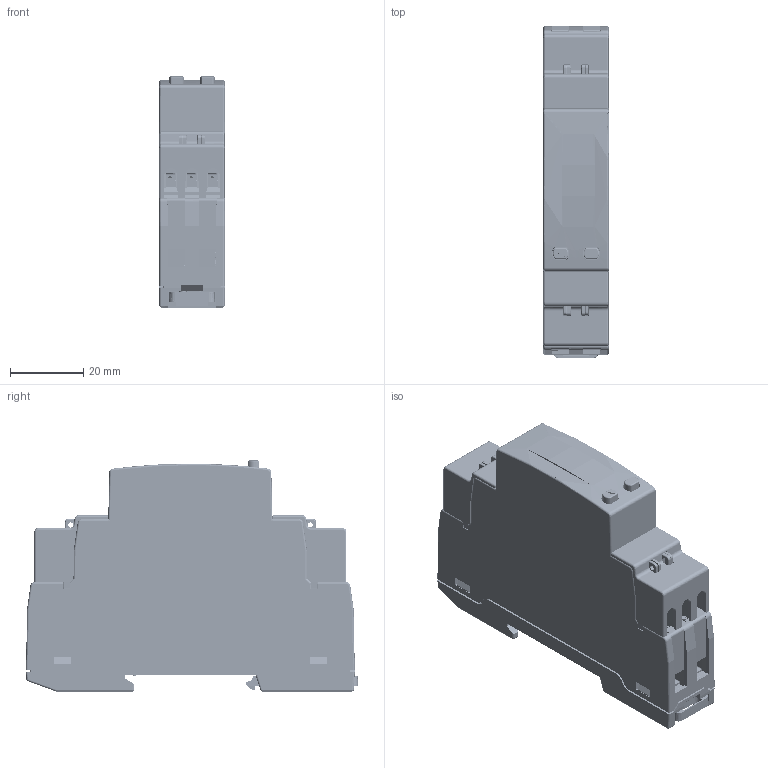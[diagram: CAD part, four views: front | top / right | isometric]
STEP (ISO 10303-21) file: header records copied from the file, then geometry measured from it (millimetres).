
FILE_DESCRIPTION(/* description */ (''),/* implementation_level */ '2;1');
FILE_NAME(/* name */ 'Z:\Meccanica\EM511\EM511_REV2\EM511 - Full_20220228.stp',/* time_stamp */ '2022-02-28T15:48:15+01:00',/* author */ ('dfregona'),/* organization */ (''),/* preprocessor_version */ 'ST-DEVELOPER v18.1',/* originating_system */ 'Autodesk Inventor 2021',/* authorisation */ '');
FILE_SCHEMA (('AUTOMOTIVE_DESIGN { 1 0 10303 214 3 1 1 }'));
Products named in the file (38): EM511; MEC1245_Rev4; MEC1246_Rev3; MEC1247_Rev1; MEC1248_Rev1.1; MEC1249_Rev1; MEC1250_Rev2; EM140-GG-2_3_XG_AF6_2; MEC1251; MEC1252_Rev2; AssiemePCB_2; 2301579; CS1791; CS1793; CS1741; CS1741_BoardAndModels; DesignRootModel; Submodel-2605006_part_simplified_0805led; Submodel-D_prj_pcbCS1741BLayout3DInput_SLED SMD 0805.xtd; LED SMD 0805; Submodel-43-508_part_simplified_MPTCLGP2; Submodel-D_prj_pcbCS1741BLayout3DInput_S3x4x2mm - 2 Pad.xtd; 3x4x2mm - 2 Pad; uid__3361580; Submodel-WeldConn_3131823683_part_SMDRNDRCT80x55; Submodel-noModelForPart_WeldConn_3131823683; placementOutline; Submodel-WeldConn_3332427523_part_SMDRNDRCT80x55; Submodel-noModelForPart_WeldConn_3332427523; placementOutline_1; CS1741_CopperTop; CS1741_CopperBottom; CS1737; Trafo_EM511; 1302221_Carrello; 1319123 - Vite Pozidriv_rev1; Vite_MSQ; 1.14.00.00.4
Assembly tree (53 placements, depth 8):
  EM511
    MEC1245_Rev4
    MEC1246_Rev3
    MEC1247_Rev1
    MEC1248_Rev1.1  x2
    MEC1249_Rev1
    MEC1250_Rev2
    EM140-GG-2_3_XG_AF6_2
    MEC1251
    MEC1252_Rev2
    AssiemePCB_2
      2301579
      CS1791
      CS1793
      CS1741
        CS1741_BoardAndModels
          DesignRootModel
            Submodel-2605006_part_simplified_0805led
              Submodel-D_prj_pcbCS1741BLayout3DInput_SLED SMD 0805.xtd
                LED SMD 0805
            Submodel-43-508_part_simplified_MPTCLGP2  x2
              Submodel-D_prj_pcbCS1741BLayout3DInput_S3x4x2mm - 2 Pad.xtd
                3x4x2mm - 2 Pad
            uid__3361580
            Submodel-WeldConn_3131823683_part_SMDRNDRCT80x55  x2
              Submodel-noModelForPart_WeldConn_3131823683
                placementOutline
            Submodel-WeldConn_3332427523_part_SMDRNDRCT80x55  x2
              Submodel-noModelForPart_WeldConn_3332427523
                placementOutline_1
        CS1741_CopperTop
        CS1741_CopperBottom
      CS1737
      Trafo_EM511
    1302221_Carrello  x2
    1319123 - Vite Pozidriv_rev1  x4
    Vite_MSQ  x6
    1.14.00.00.4  x4
Bounding box: 17.9 x 90.9 x 63.26 mm (x, y, z)
Volume: 55019 mm3; surface area: 107229.3 mm2
Topology: 1609 solids, 2025 shells, 48383 faces, 129986 edges, 85293 vertices
Faces by surface type: plane 28444, cylinder 15423, bspline 3260, sphere 1058, torus 124, cone 74
Full cylindrical faces by diameter (mm): 0.2 x4, 0.25 x504, 0.35 x48, 0.375 x2, 0.457 x96, 0.5 x2, 0.6 x29, 0.65 x8, 0.7 x8, 0.762 x1, 0.8 x57, 0.937 x10, 1 x138, 1.016 x1, 1.1 x12, 1.2 x40, 1.27 x7, 1.3 x60, 1.4 x4, 1.5 x4, 1.524 x25, 1.778 x47, 1.981 x5, 2 x6, 2.032 x17, 2.2 x18, 2.238 x2, 2.286 x8, 2.3 x16, 2.4 x12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
Entity records: 1551281 total; most frequent: CARTESIAN_POINT 344595, ORIENTED_EDGE 252224, DIRECTION 241613, EDGE_CURVE 126752, LINE 88021, VECTOR 88021, VERTEX_POINT 83527, AXIS2_PLACEMENT_3D 76796
